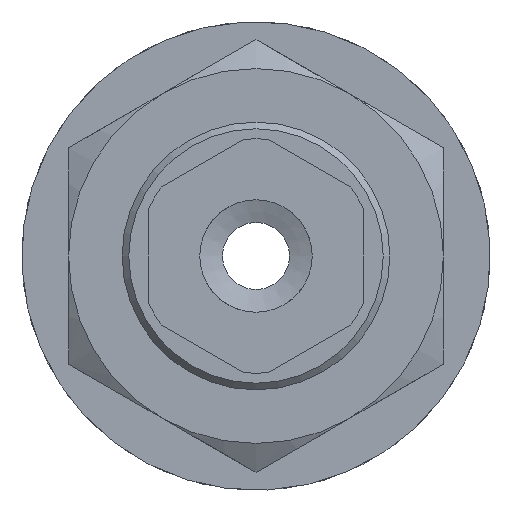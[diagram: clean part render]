
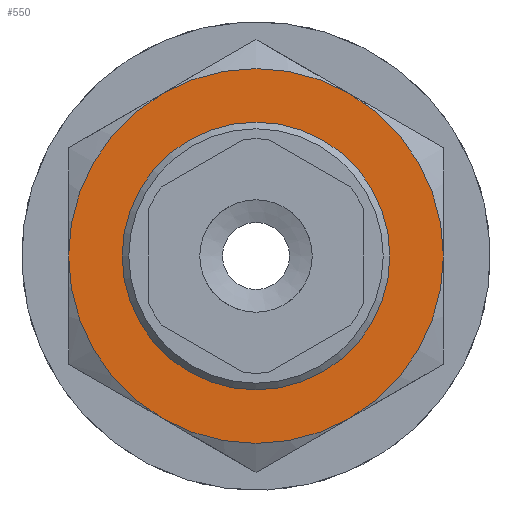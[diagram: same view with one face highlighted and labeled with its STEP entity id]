
A CAD part, front view. The second image highlights one B-rep face of the part: STEP entity #550.
In plain terms, the highlighted planar face has unit normal (0, -1, 0) as drawn and (1, 0, 0) by its records, which use the part's own axes.
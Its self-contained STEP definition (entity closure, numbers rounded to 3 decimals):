
#550=ADVANCED_FACE('',(#822,#823),#824,.F.);
#822=FACE_BOUND('',#1135,.T.);
#823=FACE_OUTER_BOUND('',#1136,.T.);
#824=PLANE('',#1137);
#1135=EDGE_LOOP('',(#2805));
#1136=EDGE_LOOP('',(#2806,#2807,#2808,#2809,#2810,#2811));
#1137=AXIS2_PLACEMENT_3D('',#2812,#2813,#2814);
#2805=ORIENTED_EDGE('',*,*,#3334,.T.);
#2806=ORIENTED_EDGE('',*,*,#3352,.F.);
#2807=ORIENTED_EDGE('',*,*,#3353,.F.);
#2808=ORIENTED_EDGE('',*,*,#3354,.F.);
#2809=ORIENTED_EDGE('',*,*,#3355,.F.);
#2810=ORIENTED_EDGE('',*,*,#3356,.F.);
#2811=ORIENTED_EDGE('',*,*,#3317,.F.);
#2812=CARTESIAN_POINT('',(0.,0.,14.0));
#2813=DIRECTION('',(-1.0,0.,0.0));
#2814=DIRECTION('',(0.,-1.0,0.0));
#3317=EDGE_CURVE('',#3543,#3545,#3546,.T.);
#3334=EDGE_CURVE('',#3575,#3575,#3576,.T.);
#3352=EDGE_CURVE('',#3554,#3543,#3602,.T.);
#3353=EDGE_CURVE('',#3587,#3554,#3603,.T.);
#3354=EDGE_CURVE('',#3567,#3587,#3604,.T.);
#3355=EDGE_CURVE('',#3605,#3567,#3606,.T.);
#3356=EDGE_CURVE('',#3545,#3605,#3607,.T.);
#3543=VERTEX_POINT('',#3864);
#3545=VERTEX_POINT('',#3871);
#3546=CIRCLE('',#3872,7.0);
#3554=VERTEX_POINT('',#3893);
#3567=VERTEX_POINT('',#3928);
#3575=VERTEX_POINT('',#3956);
#3576=CIRCLE('',#3957,5.0);
#3587=VERTEX_POINT('',#3973);
#3602=CIRCLE('',#4007,7.0);
#3603=CIRCLE('',#4008,7.0);
#3604=CIRCLE('',#4009,7.0);
#3605=VERTEX_POINT('',#4010);
#3606=CIRCLE('',#4011,7.0);
#3607=CIRCLE('',#4012,7.0);
#3864=CARTESIAN_POINT('',(0.,6.062,3.5));
#3871=CARTESIAN_POINT('',(0.,6.062,-3.5));
#3872=AXIS2_PLACEMENT_3D('',#4688,#4689,#4690);
#3893=CARTESIAN_POINT('',(0.,0.0,7.0));
#3928=CARTESIAN_POINT('',(0.,-6.062,-3.5));
#3956=CARTESIAN_POINT('',(0.,-5.0,0.));
#3957=AXIS2_PLACEMENT_3D('',#4695,#4696,#4697);
#3973=CARTESIAN_POINT('',(0.,-6.062,3.5));
#4007=AXIS2_PLACEMENT_3D('',#4725,#4726,#4727);
#4008=AXIS2_PLACEMENT_3D('',#4728,#4729,#4730);
#4009=AXIS2_PLACEMENT_3D('',#4731,#4732,#4733);
#4010=CARTESIAN_POINT('',(0.,0.0,-7.0));
#4011=AXIS2_PLACEMENT_3D('',#4734,#4735,#4736);
#4012=AXIS2_PLACEMENT_3D('',#4737,#4738,#4739);
#4688=CARTESIAN_POINT('',(0.,0.0,0.0));
#4689=DIRECTION('',(-1.0,0.0,0.0));
#4690=DIRECTION('',(0.0,0.0,1.0));
#4695=CARTESIAN_POINT('',(0.0,0.,0.));
#4696=DIRECTION('',(-1.0,0.,0.0));
#4697=DIRECTION('',(0.,-1.0,0.0));
#4725=CARTESIAN_POINT('',(0.,0.0,0.0));
#4726=DIRECTION('',(-1.0,0.0,0.0));
#4727=DIRECTION('',(0.0,0.0,1.0));
#4728=CARTESIAN_POINT('',(0.,0.0,0.0));
#4729=DIRECTION('',(-1.0,0.0,0.0));
#4730=DIRECTION('',(0.0,0.0,1.0));
#4731=CARTESIAN_POINT('',(0.,0.0,0.0));
#4732=DIRECTION('',(-1.0,0.0,0.0));
#4733=DIRECTION('',(0.0,0.0,1.0));
#4734=CARTESIAN_POINT('',(0.,0.0,0.0));
#4735=DIRECTION('',(-1.0,0.0,0.0));
#4736=DIRECTION('',(0.0,0.0,1.0));
#4737=CARTESIAN_POINT('',(0.,0.0,0.0));
#4738=DIRECTION('',(-1.0,0.0,0.0));
#4739=DIRECTION('',(0.0,0.0,1.0));
